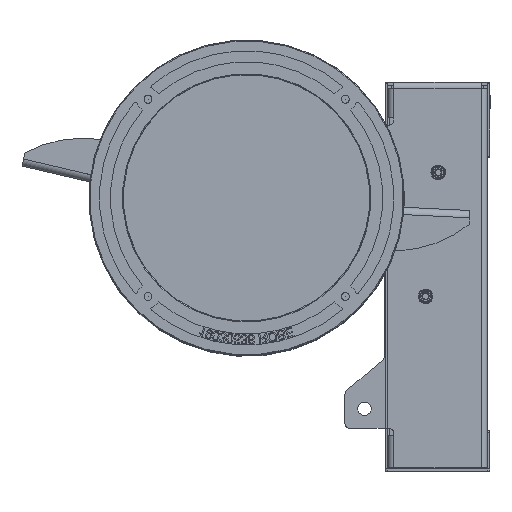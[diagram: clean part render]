
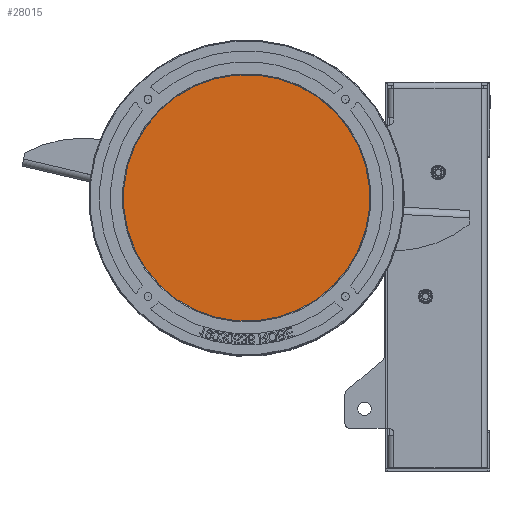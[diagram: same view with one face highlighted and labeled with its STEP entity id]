
A CAD part, top view. The second image highlights one B-rep face of the part: STEP entity #28015.
In plain terms, the highlighted planar face has unit normal (0, 0, 1).
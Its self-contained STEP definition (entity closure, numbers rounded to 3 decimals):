
#639=PLANE('',#35791);
#9388=ORIENTED_EDGE('',*,*,#16288,.F.);
#16288=EDGE_CURVE('',#19883,#19883,#22267,.T.);
#19883=VERTEX_POINT('',#50556);
#22267=CIRCLE('',#35789,53.2);
#23421=EDGE_LOOP('',(#9388));
#25734=FACE_BOUND('',#23421,.T.);
#28015=ADVANCED_FACE('',(#25734),#639,.F.);
#35789=AXIS2_PLACEMENT_3D('',#50555,#39569,#39570);
#35791=AXIS2_PLACEMENT_3D('',#50558,#39573,#39574);
#39569=DIRECTION('',(0.,0.,-1.));
#39570=DIRECTION('',(-1.,0.,0.));
#39573=DIRECTION('',(0.,0.,-1.));
#39574=DIRECTION('',(-1.,0.,0.));
#50555=CARTESIAN_POINT('',(0.,0.,3.));
#50556=CARTESIAN_POINT('',(-53.2,0.,3.));
#50558=CARTESIAN_POINT('',(0.,0.,3.));
